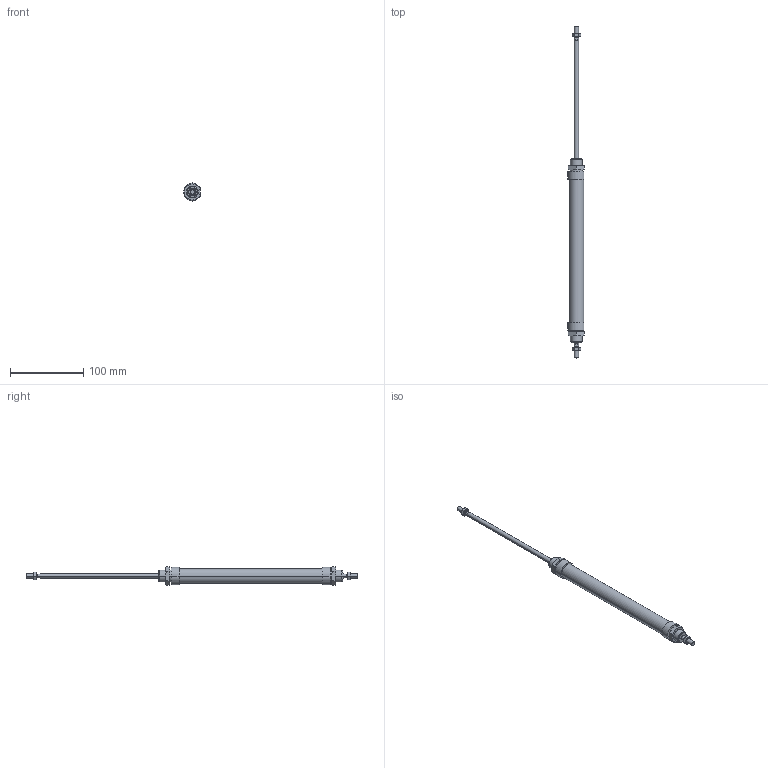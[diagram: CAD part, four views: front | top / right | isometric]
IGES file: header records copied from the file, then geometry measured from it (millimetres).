
Global section: file name: No Iges File Name specified; native system: AutoDesk Inventor R6.0; preprocessor: AutoDesk Inventor Iges Exporter R6.0; author: No Author specified; organization: No Organization specified; date: 20030403.072215; units: millimetre
Bounding box: 23 x 452 x 25.4 mm (x, y, z)
Volume: 86240.8 mm3; surface area: 32932.3 mm2
Topology: 6 solids, 6 shells, 180 faces, 388 edges, 228 vertices
Faces by surface type: cone 68, plane 56, bspline 30, cylinder 20, revolution 6
